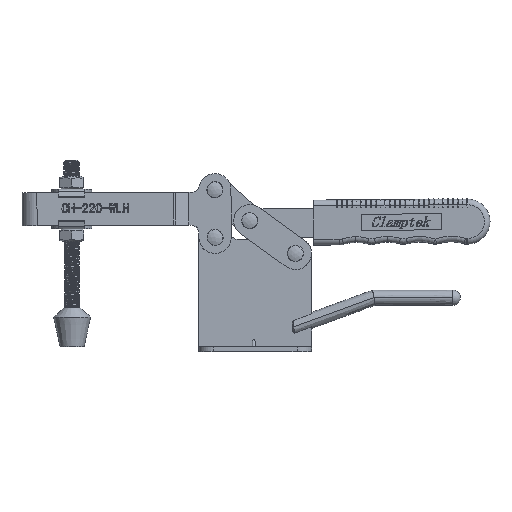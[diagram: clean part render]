
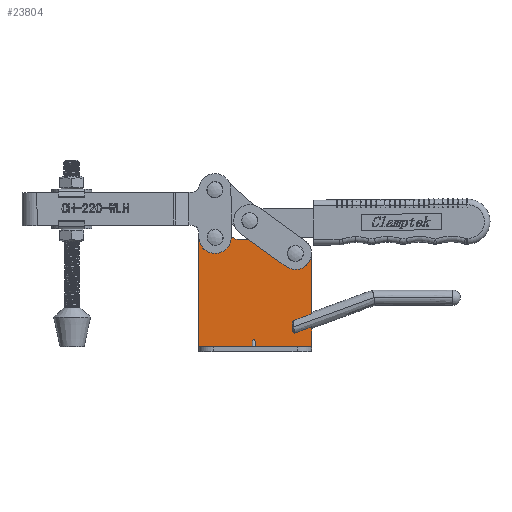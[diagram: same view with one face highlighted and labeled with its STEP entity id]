
A CAD part, top view. The second image highlights one B-rep face of the part: STEP entity #23804.
In plain terms, the highlighted planar face has unit normal (0, 0, 1).
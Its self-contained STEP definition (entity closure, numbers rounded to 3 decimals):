
#565=FACE_BOUND('',#4717,.T.);
#566=FACE_BOUND('',#4718,.T.);
#1420=B_SPLINE_CURVE_WITH_KNOTS('',3,(#85355,#85356,#85357,#85358,#85359,
#85360),.UNSPECIFIED.,.F.,.F.,(4,2,4),(0.,0.098,
0.181),.UNSPECIFIED.);
#1421=B_SPLINE_CURVE_WITH_KNOTS('',3,(#85364,#85365,#85366,#85367,#85368,
#85369),.UNSPECIFIED.,.F.,.F.,(4,2,4),(0.,0.071,0.148),
 .UNSPECIFIED.);
#1960=PLANE('',#25491);
#2012=ELLIPSE('',#25468,1.601,1.);
#3337=FACE_OUTER_BOUND('',#4716,.T.);
#4716=EDGE_LOOP('',(#21833,#21834,#21835,#21836,#21837,#21838,#21839,#21840,
#21841,#21842,#21843,#21844,#21845,#21846,#21847,#21848,#21849));
#4717=EDGE_LOOP('',(#21850,#21851));
#4718=EDGE_LOOP('',(#21852,#21853));
#6745=LINE('',#84942,#8800);
#6757=LINE('',#85353,#8812);
#6758=LINE('',#85362,#8813);
#6759=LINE('',#85371,#8814);
#6760=LINE('',#85373,#8815);
#6761=LINE('',#85377,#8816);
#6762=LINE('',#85383,#8817);
#6763=LINE('',#85385,#8818);
#6764=LINE('',#85386,#8819);
#6765=LINE('',#85388,#8820);
#6766=LINE('',#85389,#8821);
#8800=VECTOR('',#30367,1000.);
#8812=VECTOR('',#30433,1000.);
#8813=VECTOR('',#30434,1000.);
#8814=VECTOR('',#30435,1000.);
#8815=VECTOR('',#30436,1000.);
#8816=VECTOR('',#30439,1000.);
#8817=VECTOR('',#30444,1000.);
#8818=VECTOR('',#30445,1000.);
#8819=VECTOR('',#30446,1000.);
#8820=VECTOR('',#30447,1000.);
#8821=VECTOR('',#30448,1000.);
#9423=CIRCLE('',#25480,3.2);
#9426=CIRCLE('',#25483,3.2);
#9427=CIRCLE('',#25485,3.2);
#9430=CIRCLE('',#25488,3.2);
#9431=CIRCLE('',#25492,10.);
#9432=CIRCLE('',#25493,5.);
#9433=CIRCLE('',#25494,10.);
#11604=VERTEX_POINT('',#84923);
#11605=VERTEX_POINT('',#84941);
#11611=VERTEX_POINT('',#85032);
#11612=VERTEX_POINT('',#85034);
#11621=VERTEX_POINT('',#85058);
#11622=VERTEX_POINT('',#85059);
#11625=VERTEX_POINT('',#85068);
#11626=VERTEX_POINT('',#85069);
#11632=VERTEX_POINT('',#85352);
#11633=VERTEX_POINT('',#85354);
#11634=VERTEX_POINT('',#85361);
#11635=VERTEX_POINT('',#85363);
#11636=VERTEX_POINT('',#85370);
#11637=VERTEX_POINT('',#85372);
#11638=VERTEX_POINT('',#85374);
#11639=VERTEX_POINT('',#85376);
#11640=VERTEX_POINT('',#85378);
#11641=VERTEX_POINT('',#85380);
#11642=VERTEX_POINT('',#85382);
#11643=VERTEX_POINT('',#85384);
#11644=VERTEX_POINT('',#85387);
#15032=EDGE_CURVE('',#11605,#11604,#6745,.T.);
#15039=EDGE_CURVE('',#11612,#11611,#2012,.T.);
#15051=EDGE_CURVE('',#11621,#11622,#9423,.T.);
#15055=EDGE_CURVE('',#11622,#11621,#9426,.T.);
#15056=EDGE_CURVE('',#11625,#11626,#9427,.T.);
#15060=EDGE_CURVE('',#11626,#11625,#9430,.T.);
#15069=EDGE_CURVE('',#11632,#11605,#6757,.T.);
#15070=EDGE_CURVE('',#11604,#11633,#1420,.T.);
#15071=EDGE_CURVE('',#11633,#11634,#6758,.T.);
#15072=EDGE_CURVE('',#11634,#11635,#1421,.T.);
#15073=EDGE_CURVE('',#11635,#11636,#6759,.T.);
#15074=EDGE_CURVE('',#11636,#11637,#6760,.T.);
#15075=EDGE_CURVE('',#11637,#11638,#9431,.T.);
#15076=EDGE_CURVE('',#11638,#11639,#6761,.T.);
#15077=EDGE_CURVE('',#11639,#11640,#9432,.T.);
#15078=EDGE_CURVE('',#11640,#11641,#9433,.T.);
#15079=EDGE_CURVE('',#11641,#11642,#6762,.T.);
#15080=EDGE_CURVE('',#11643,#11642,#6763,.T.);
#15081=EDGE_CURVE('',#11612,#11643,#6764,.T.);
#15082=EDGE_CURVE('',#11611,#11644,#6765,.T.);
#15083=EDGE_CURVE('',#11632,#11644,#6766,.T.);
#21833=ORIENTED_EDGE('',*,*,#15069,.T.);
#21834=ORIENTED_EDGE('',*,*,#15032,.T.);
#21835=ORIENTED_EDGE('',*,*,#15070,.T.);
#21836=ORIENTED_EDGE('',*,*,#15071,.T.);
#21837=ORIENTED_EDGE('',*,*,#15072,.T.);
#21838=ORIENTED_EDGE('',*,*,#15073,.T.);
#21839=ORIENTED_EDGE('',*,*,#15074,.T.);
#21840=ORIENTED_EDGE('',*,*,#15075,.T.);
#21841=ORIENTED_EDGE('',*,*,#15076,.T.);
#21842=ORIENTED_EDGE('',*,*,#15077,.T.);
#21843=ORIENTED_EDGE('',*,*,#15078,.T.);
#21844=ORIENTED_EDGE('',*,*,#15079,.T.);
#21845=ORIENTED_EDGE('',*,*,#15080,.F.);
#21846=ORIENTED_EDGE('',*,*,#15081,.F.);
#21847=ORIENTED_EDGE('',*,*,#15039,.T.);
#21848=ORIENTED_EDGE('',*,*,#15082,.T.);
#21849=ORIENTED_EDGE('',*,*,#15083,.F.);
#21850=ORIENTED_EDGE('',*,*,#15056,.F.);
#21851=ORIENTED_EDGE('',*,*,#15060,.F.);
#21852=ORIENTED_EDGE('',*,*,#15051,.F.);
#21853=ORIENTED_EDGE('',*,*,#15055,.F.);
#23804=ADVANCED_FACE('',(#3337,#565,#566),#1960,.T.);
#25468=AXIS2_PLACEMENT_3D('',#85035,#30377,#30378);
#25480=AXIS2_PLACEMENT_3D('',#85060,#30404,#30405);
#25483=AXIS2_PLACEMENT_3D('',#85066,#30411,#30412);
#25485=AXIS2_PLACEMENT_3D('',#85070,#30415,#30416);
#25488=AXIS2_PLACEMENT_3D('',#85076,#30422,#30423);
#25491=AXIS2_PLACEMENT_3D('',#85351,#30431,#30432);
#25492=AXIS2_PLACEMENT_3D('',#85375,#30437,#30438);
#25493=AXIS2_PLACEMENT_3D('',#85379,#30440,#30441);
#25494=AXIS2_PLACEMENT_3D('',#85381,#30442,#30443);
#30367=DIRECTION('',(-0.94,-0.342,0.));
#30377=DIRECTION('center_axis',(0.,0.,
-1.));
#30378=DIRECTION('ref_axis',(0.,1.,0.));
#30404=DIRECTION('center_axis',(0.,0.,1.));
#30405=DIRECTION('ref_axis',(1.,0.,0.));
#30411=DIRECTION('center_axis',(0.,0.,1.));
#30412=DIRECTION('ref_axis',(1.,0.,0.));
#30415=DIRECTION('center_axis',(0.,0.,1.));
#30416=DIRECTION('ref_axis',(1.,0.,0.));
#30422=DIRECTION('center_axis',(0.,0.,1.));
#30423=DIRECTION('ref_axis',(1.,0.,0.));
#30431=DIRECTION('center_axis',(0.,0.,1.));
#30432=DIRECTION('ref_axis',(1.,0.,0.));
#30433=DIRECTION('',(0.,1.,0.));
#30434=DIRECTION('',(0.,1.,0.));
#30435=DIRECTION('',(0.94,0.342,0.));
#30436=DIRECTION('',(0.,1.,0.));
#30437=DIRECTION('center_axis',(0.,0.,1.));
#30438=DIRECTION('ref_axis',(1.,0.,0.));
#30439=DIRECTION('',(-1.,0.,0.));
#30440=DIRECTION('center_axis',(0.,0.,-1.));
#30441=DIRECTION('ref_axis',(1.,0.,0.));
#30442=DIRECTION('center_axis',(0.,0.,1.));
#30443=DIRECTION('ref_axis',(1.,0.,0.));
#30444=DIRECTION('',(0.,-1.,0.));
#30445=DIRECTION('',(-1.,0.,0.));
#30446=DIRECTION('',(0.,-1.,0.));
#30447=DIRECTION('',(0.,-1.,0.));
#30448=DIRECTION('',(-1.,0.,0.));
#84923=CARTESIAN_POINT('',(59.279,11.466,3.));
#84941=CARTESIAN_POINT('',(70.,15.368,3.));
#84942=CARTESIAN_POINT('',(83.984,20.457,3.));
#85032=CARTESIAN_POINT('',(35.,5.736,3.));
#85034=CARTESIAN_POINT('',(33.,5.736,3.));
#85035=CARTESIAN_POINT('Origin',(34.,5.736,3.));
#85058=CARTESIAN_POINT('',(6.8,71.,3.));
#85059=CARTESIAN_POINT('',(13.2,71.,3.));
#85060=CARTESIAN_POINT('Origin',(10.,71.,3.));
#85066=CARTESIAN_POINT('Origin',(10.,71.,3.));
#85068=CARTESIAN_POINT('',(56.8,61.,3.));
#85069=CARTESIAN_POINT('',(63.2,61.,3.));
#85070=CARTESIAN_POINT('Origin',(60.,61.,3.));
#85076=CARTESIAN_POINT('Origin',(60.,61.,3.));
#85351=CARTESIAN_POINT('Origin',(10.,71.,3.));
#85352=CARTESIAN_POINT('',(70.,3.,3.));
#85353=CARTESIAN_POINT('',(70.,0.,3.));
#85354=CARTESIAN_POINT('',(58.,12.766,3.));
#85355=CARTESIAN_POINT('Ctrl Pts',(59.278,11.465,3.));
#85356=CARTESIAN_POINT('Ctrl Pts',(59.037,11.685,3.));
#85357=CARTESIAN_POINT('Ctrl Pts',(58.795,11.915,3.));
#85358=CARTESIAN_POINT('Ctrl Pts',(58.372,12.346,3.));
#85359=CARTESIAN_POINT('Ctrl Pts',(58.179,12.553,3.));
#85360=CARTESIAN_POINT('Ctrl Pts',(58.,12.766,3.));
#85361=CARTESIAN_POINT('',(58.,17.964,3.));
#85362=CARTESIAN_POINT('',(58.,71.,3.));
#85363=CARTESIAN_POINT('',(58.719,19.263,3.001));
#85364=CARTESIAN_POINT('Ctrl Pts',(58.,17.964,3.));
#85365=CARTESIAN_POINT('Ctrl Pts',(58.11,18.175,3.));
#85366=CARTESIAN_POINT('Ctrl Pts',(58.223,18.386,3.));
#85367=CARTESIAN_POINT('Ctrl Pts',(58.462,18.818,3.));
#85368=CARTESIAN_POINT('Ctrl Pts',(58.59,19.041,3.));
#85369=CARTESIAN_POINT('Ctrl Pts',(58.718,19.263,3.));
#85370=CARTESIAN_POINT('',(70.,23.368,3.));
#85371=CARTESIAN_POINT('',(83.984,28.457,3.));
#85372=CARTESIAN_POINT('',(70.,61.,3.));
#85373=CARTESIAN_POINT('',(70.,0.,3.));
#85374=CARTESIAN_POINT('',(54.897,69.6,3.));
#85375=CARTESIAN_POINT('Origin',(60.,61.,3.));
#85376=CARTESIAN_POINT('',(24.562,69.6,3.));
#85377=CARTESIAN_POINT('',(24.562,69.6,3.));
#85378=CARTESIAN_POINT('',(19.708,73.4,3.));
#85379=CARTESIAN_POINT('Origin',(24.562,74.6,3.));
#85380=CARTESIAN_POINT('',(0.,71.,3.));
#85381=CARTESIAN_POINT('Origin',(10.,71.,3.));
#85382=CARTESIAN_POINT('',(0.,3.,3.));
#85383=CARTESIAN_POINT('',(0.,0.,3.));
#85384=CARTESIAN_POINT('',(33.,3.,3.));
#85385=CARTESIAN_POINT('',(10.,3.,3.));
#85386=CARTESIAN_POINT('',(33.,3.,3.));
#85387=CARTESIAN_POINT('',(35.,3.,3.));
#85388=CARTESIAN_POINT('',(35.,3.,3.));
#85389=CARTESIAN_POINT('',(10.,3.,3.));
